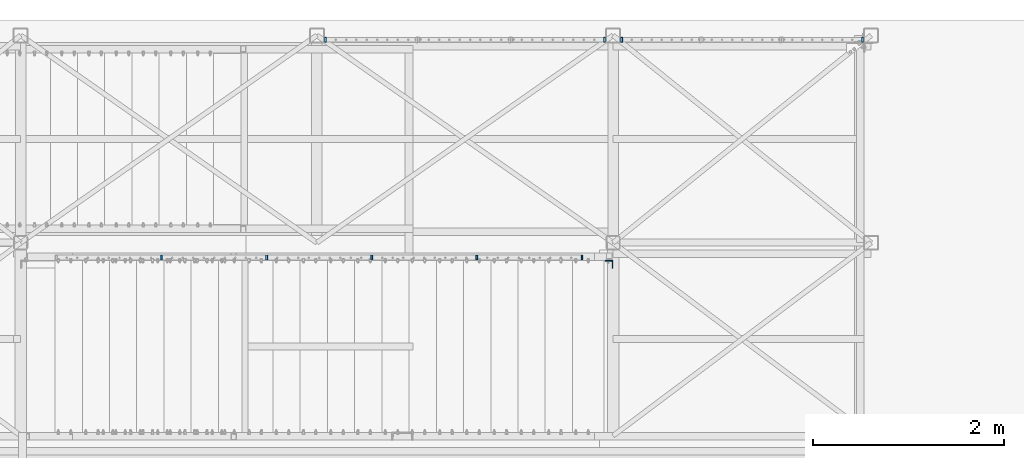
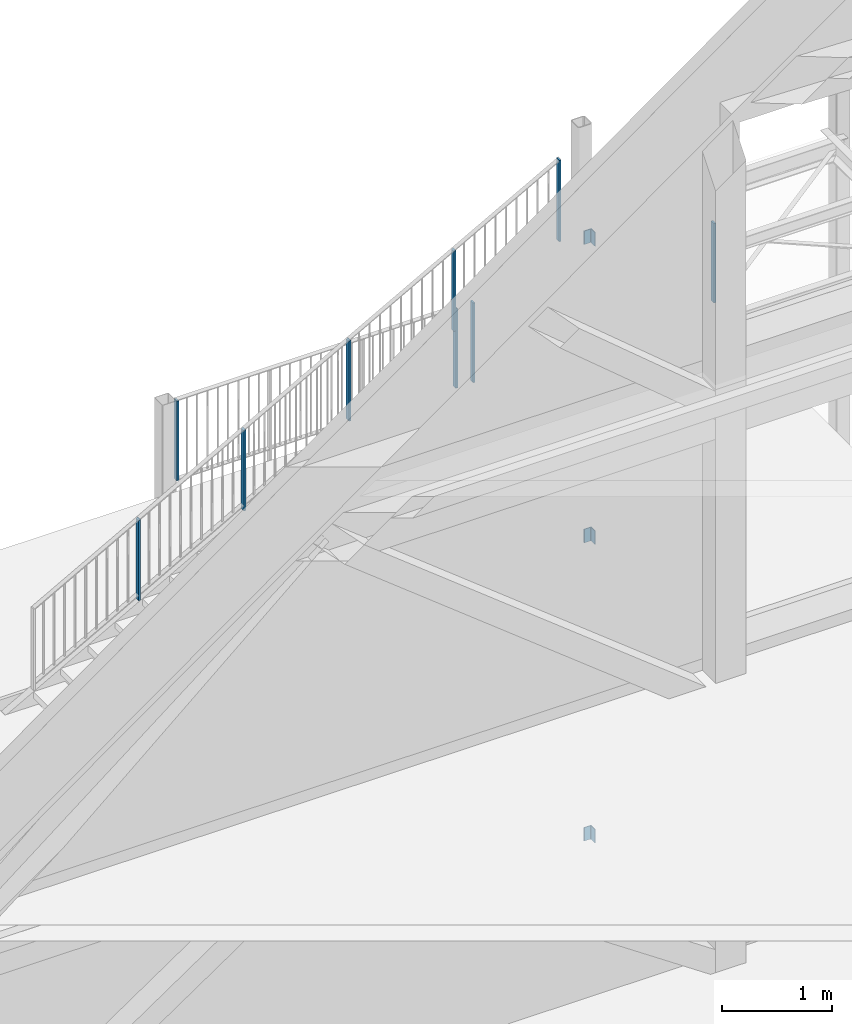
# One storey, part 18 of 78: 12 columns, 6 elements without a shape of their own.
"""IFC2X3 building model written with IfcOpenShell, lengths in millimetres."""

from ifc_helpers import new_model, si_unit, frame, origin_with_axes, origin_2d_with_axis, place, context, subcontext, project, spatial, rectangle, l_section, extrude, clip, halfspace, material, type_object, element, aggregate, save


model = new_model("IFC2X3")

# Units and contexts
model_context = context("Model", 3, precision=1e-05, world=origin_with_axes())
body_context = subcontext(model_context, "Body", "Model", "MODEL_VIEW")
ifc_project = project(units=[si_unit("LENGTHUNIT", "METRE", prefix="MILLI"), si_unit("AREAUNIT", "SQUARE_METRE"), si_unit("VOLUMEUNIT", "CUBIC_METRE"), si_unit("MASSUNIT", "GRAM", prefix="KILO"), si_unit("TIMEUNIT", "SECOND"), si_unit("PLANEANGLEUNIT", "RADIAN"), si_unit("SOLIDANGLEUNIT", "STERADIAN"), si_unit("THERMODYNAMICTEMPERATUREUNIT", "DEGREE_CELSIUS"), si_unit("LUMINOUSINTENSITYUNIT", "LUMEN")], contexts=[model_context])

# Site, building, storey
site_placement = place(None, origin_with_axes())
site = spatial("IfcSite", under=ifc_project, at=site_placement, Name="Site", CompositionType="ELEMENT")
building_placement = place(site_placement, origin_with_axes())
building = spatial("IfcBuilding", under=site, at=building_placement, Name="Undefined", CompositionType="ELEMENT")
storey_placement = place(building_placement, origin_with_axes())
storey = spatial("IfcBuildingStorey", under=building, at=storey_placement, Name="Undefined", CompositionType="ELEMENT", Elevation=0.0)

# Assembly, columns
assembly_1_placement = place(storey_placement, origin_with_axes())
assembly_1 = element("IfcElementAssembly", 1, at=assembly_1_placement, inside=storey, Name="MAIN_COURANTE", AssemblyPlace="NOTDEFINED", PredefinedType="RIGID_FRAME")
ifc_material = material(Name="STEEL/S235JR")
column_type_1 = type_object("IfcColumnType", Name="PL20*50", PredefinedType="NOTDEFINED")
column_1_placement = place(assembly_1_placement, frame((1588.57000000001, 32872.9999999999, 156810.04), z_axis=(0.0, 0.0, 1.0), x_axis=(0.0, -1.0, 0.0)))
column_1 = element("IfcColumn", 2, at=column_1_placement, type_object=column_type_1, material=ifc_material, Name="MONTANT", ObjectType="PL20*50", context=body_context, shape_type="Clipping", body=[
    clip(extrude(rectangle(XDim=20.0, YDim=50.0, at=origin_2d_with_axis()), frame((0.0, 0.0, 890.0), z_axis=(0.0, 0.0, -1.0), x_axis=(0.0, 1.0, 0.0)), (0.0, 0.0, 1.0), 890.0), halfspace(frame((0.0, 0.0, 880.0), z_axis=(0.0, 0.0, 1.0), x_axis=(-1.0, 0.0, 0.0)), False)),
])
column_2_placement = place(assembly_1_placement, frame((4108.57, 32872.9999999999, 156810.04), z_axis=(0.0, 0.0, 1.0), x_axis=(0.0, -1.0, 0.0)))
column_2 = element("IfcColumn", 3, at=column_2_placement, type_object=column_type_1, material=ifc_material, Name="MONTANT", ObjectType="PL20*50", context=body_context, shape_type="Clipping", body=[
    clip(extrude(rectangle(XDim=20.0, YDim=50.0, at=origin_2d_with_axis()), frame((0.0, 0.0, 890.0), z_axis=(0.0, 0.0, -1.0), x_axis=(0.0, 1.0, 0.0)), (0.0, 0.0, 1.0), 890.0), halfspace(frame((0.0, 0.0, 880.0), z_axis=(0.0, 0.0, 1.0), x_axis=(-1.0, 0.0, 0.0)), False)),
])
aggregate(assembly_1, [column_1, column_2])

# Assembly, column
assembly_2_placement = place(storey_placement, origin_with_axes())
assembly_2 = element("IfcElementAssembly", 4, at=assembly_2_placement, inside=storey, Name="MAIN_COURANTE", AssemblyPlace="NOTDEFINED", PredefinedType="RIGID_FRAME")
column_3_placement = place(assembly_2_placement, frame((-1511.43, 32873.0, 156810.04), z_axis=(0.0, 0.0, 1.0), x_axis=(0.0, -1.0, 0.0)))
column_3 = element("IfcColumn", 5, at=column_3_placement, type_object=column_type_1, material=ifc_material, Name="MONTANT", ObjectType="PL20*50", context=body_context, shape_type="Clipping", body=[
    clip(extrude(rectangle(XDim=20.0, YDim=50.0, at=origin_2d_with_axis()), frame((0.0, 0.0, 890.0), z_axis=(0.0, 0.0, -1.0), x_axis=(0.0, 1.0, 0.0)), (0.0, 0.0, 1.0), 890.0), halfspace(frame((0.0, 0.0, 880.0), z_axis=(0.0, 0.0, 1.0), x_axis=(-1.0, 0.0, 0.0)), False)),
])

# Assembly, columns
assembly_3_placement = place(storey_placement, origin_with_axes())
assembly_3 = element("IfcElementAssembly", 6, at=assembly_3_placement, inside=storey, Name="MAIN_COURANTE", AssemblyPlace="NOTDEFINED", PredefinedType="RIGID_FRAME")
column_4_placement = place(assembly_3_placement, frame((-3227.0057156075, 30592.9999997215, 157465.906049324), z_axis=(0.0, 0.0, 1.0), x_axis=(0.0, -1.0, 0.0)))
column_4 = element("IfcColumn", 7, at=column_4_placement, type_object=column_type_1, material=ifc_material, Name="MONTANT", ObjectType="PL20*50", context=body_context, shape_type="Clipping", body=[
    clip(extrude(rectangle(XDim=20.0, YDim=50.0, at=origin_2d_with_axis()), frame((0.0, 0.0, 900.0), z_axis=(0.0, 0.0, -1.0), x_axis=(0.0, 1.0, 0.0)), (0.0, 0.0, 1.0), 900.0), halfspace(frame((0.0, 2.4184305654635, 889.911083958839), z_axis=(0.0, -0.483686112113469, 0.875241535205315), x_axis=(-1.0, 0.0, 0.0)), False)),
])
column_5_placement = place(assembly_3_placement, frame((-2127.0057156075, 30592.9999997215, 158073.800786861), z_axis=(0.0, 0.0, 1.0), x_axis=(0.0, -1.0, 0.0)))
column_5 = element("IfcColumn", 8, at=column_5_placement, type_object=column_type_1, material=ifc_material, Name="MONTANT", ObjectType="PL20*50", context=body_context, shape_type="Clipping", body=[
    clip(extrude(rectangle(XDim=20.0, YDim=50.0, at=origin_2d_with_axis()), frame((0.0, 0.0, 900.0), z_axis=(0.0, 0.0, -1.0), x_axis=(0.0, 1.0, 0.0)), (0.0, 0.0, 1.0), 900.0), halfspace(frame((0.0, 2.4184305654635, 889.911083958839), z_axis=(0.0, -0.483686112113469, 0.875241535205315), x_axis=(-1.0, 0.0, 0.0)), False)),
])
column_6_placement = place(assembly_3_placement, frame((-1027.0057156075, 30592.9999997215, 158681.695524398), z_axis=(0.0, 0.0, 1.0), x_axis=(0.0, -1.0, 0.0)))
column_6 = element("IfcColumn", 9, at=column_6_placement, type_object=column_type_1, material=ifc_material, Name="MONTANT", ObjectType="PL20*50", context=body_context, shape_type="Clipping", body=[
    clip(extrude(rectangle(XDim=20.0, YDim=50.0, at=origin_2d_with_axis()), frame((0.0, 0.0, 900.0), z_axis=(0.0, 0.0, -1.0), x_axis=(0.0, 1.0, 0.0)), (0.0, 0.0, 1.0), 900.0), halfspace(frame((0.0, 2.4184305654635, 889.911083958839), z_axis=(0.0, -0.483686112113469, 0.875241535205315), x_axis=(-1.0, 0.0, 0.0)), False)),
])
column_7_placement = place(assembly_3_placement, frame((72.9942843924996, 30592.9999997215, 159289.590261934), z_axis=(0.0, 0.0, 1.0), x_axis=(0.0, -1.0, 0.0)))
column_7 = element("IfcColumn", 10, at=column_7_placement, type_object=column_type_1, material=ifc_material, Name="MONTANT", ObjectType="PL20*50", context=body_context, shape_type="Clipping", body=[
    clip(extrude(rectangle(XDim=20.0, YDim=50.0, at=origin_2d_with_axis()), frame((0.0, 0.0, 900.0), z_axis=(0.0, 0.0, -1.0), x_axis=(0.0, 1.0, 0.0)), (0.0, 0.0, 1.0), 900.0), halfspace(frame((0.0, 2.4184305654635, 889.911083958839), z_axis=(0.0, -0.483686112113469, 0.875241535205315), x_axis=(-1.0, 0.0, 0.0)), False)),
])
column_8_placement = place(assembly_3_placement, frame((1172.9942843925, 30592.9999997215, 159897.484999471), z_axis=(0.0, 0.0, 1.0), x_axis=(0.0, -1.0, 0.0)))
column_8 = element("IfcColumn", 11, at=column_8_placement, type_object=column_type_1, material=ifc_material, Name="MONTANT", ObjectType="PL20*50", context=body_context, shape_type="SweptSolid", body=[
    extrude(rectangle(XDim=20.0, YDim=50.0, at=origin_2d_with_axis()), frame((0.0, 0.0, 900.0), z_axis=(0.0, 0.0, -1.0), x_axis=(0.0, 1.0, 0.0)), (0.0, 0.0, 1.0), 900.0),
])
aggregate(assembly_3, [column_4, column_5, column_6, column_7, column_8])

# Column
column_9_placement = place(assembly_2_placement, frame((1408.57000000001, 32873.0, 156810.04), z_axis=(0.0, 0.0, 1.0), x_axis=(0.0, -1.0, 0.0)))
column_9 = element("IfcColumn", 12, at=column_9_placement, type_object=column_type_1, material=ifc_material, Name="MONTANT", ObjectType="PL20*50", context=body_context, shape_type="Clipping", body=[
    clip(extrude(rectangle(XDim=20.0, YDim=50.0, at=origin_2d_with_axis()), frame((0.0, 0.0, 890.0), z_axis=(0.0, 0.0, -1.0), x_axis=(0.0, 1.0, 0.0)), (0.0, 0.0, 1.0), 890.0), halfspace(frame((0.0, 0.0, 880.0), z_axis=(0.0, 0.0, 1.0), x_axis=(-1.0, 0.0, 0.0)), False)),
])

aggregate(assembly_2, [column_3, column_9])

# Assembly, column
assembly_4_placement = place(storey_placement, origin_with_axes())
assembly_4 = element("IfcElementAssembly", 13, at=assembly_4_placement, inside=storey, Name="CONSOLE", AssemblyPlace="NOTDEFINED", PredefinedType="RIGID_FRAME")
column_type_2 = type_object("IfcColumnType", Name="L80*8", PredefinedType="NOTDEFINED")
column_10_placement = place(assembly_4_placement, frame((1455.4700000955, 30522.9999999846, 153185.039999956), z_axis=(0.0, 0.0, 1.0), x_axis=(-1.0, 0.0, 0.0)))
column_10 = element("IfcColumn", 14, at=column_10_placement, type_object=column_type_2, material=ifc_material, Name="CORNIERE", ObjectType="L80*8", context=body_context, shape_type="SweptSolid", body=[
    extrude(l_section(Depth=80.0, Width=80.0, Thickness=8.0, FilletRadius=10.0, EdgeRadius=5.0, at=origin_2d_with_axis()), frame((0.0, 0.0, 150.0), z_axis=(0.0, 0.0, -1.0), x_axis=(0.0, 1.0, 0.0)), (0.0, 0.0, 1.0), 150.0),
])
aggregate(assembly_4, [column_10])

assembly_5_placement = place(storey_placement, origin_with_axes())
assembly_5 = element("IfcElementAssembly", 15, at=assembly_5_placement, inside=storey, Name="CONSOLE", AssemblyPlace="NOTDEFINED", PredefinedType="RIGID_FRAME")
column_11_placement = place(assembly_5_placement, frame((1455.4700000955, 30522.9999999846, 156485.039999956), z_axis=(0.0, 0.0, 1.0), x_axis=(-1.0, 0.0, 0.0)))
column_11 = element("IfcColumn", 16, at=column_11_placement, type_object=column_type_2, material=ifc_material, Name="CORNIERE", ObjectType="L80*8", context=body_context, shape_type="SweptSolid", body=[
    extrude(l_section(Depth=80.0, Width=80.0, Thickness=8.0, FilletRadius=10.0, EdgeRadius=5.0, at=origin_2d_with_axis()), frame((0.0, 0.0, 150.0), z_axis=(0.0, 0.0, -1.0), x_axis=(0.0, 1.0, 0.0)), (0.0, 0.0, 1.0), 150.0),
])
aggregate(assembly_5, [column_11])

assembly_6_placement = place(storey_placement, origin_with_axes())
assembly_6 = element("IfcElementAssembly", 17, at=assembly_6_placement, inside=storey, Name="CONSOLE", AssemblyPlace="NOTDEFINED", PredefinedType="RIGID_FRAME")
column_12_placement = place(assembly_6_placement, frame((1455.4700000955, 30522.9999999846, 159785.039999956), z_axis=(0.0, 0.0, 1.0), x_axis=(-1.0, 0.0, 0.0)))
column_12 = element("IfcColumn", 18, at=column_12_placement, type_object=column_type_2, material=ifc_material, Name="CORNIERE", ObjectType="L80*8", context=body_context, shape_type="SweptSolid", body=[
    extrude(l_section(Depth=80.0, Width=80.0, Thickness=8.0, FilletRadius=10.0, EdgeRadius=5.0, at=origin_2d_with_axis()), frame((0.0, 0.0, 150.0), z_axis=(0.0, 0.0, -1.0), x_axis=(0.0, 1.0, 0.0)), (0.0, 0.0, 1.0), 150.0),
])
aggregate(assembly_6, [column_12])

save(model, "model.ifc")
